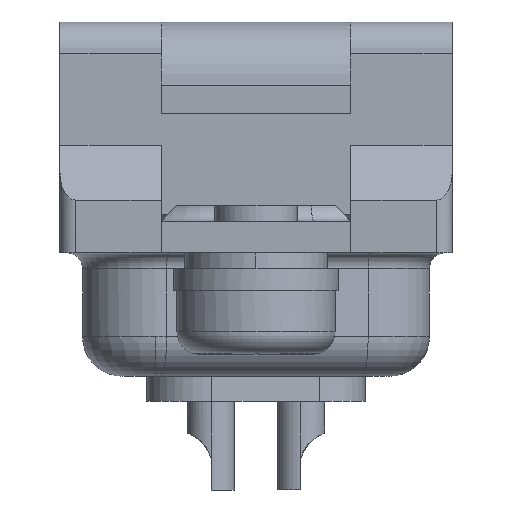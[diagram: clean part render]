
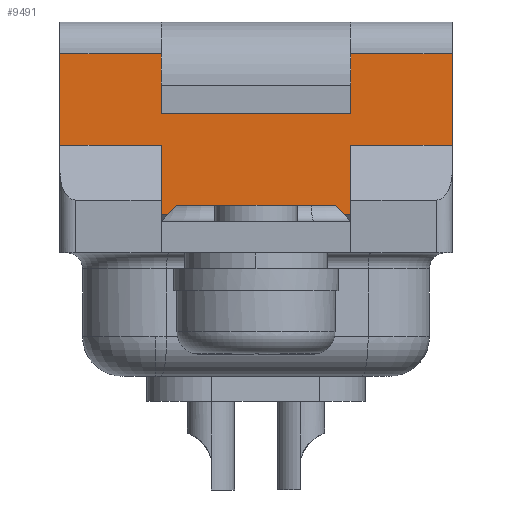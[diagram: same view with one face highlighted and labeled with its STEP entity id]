
A CAD part, left-side view. The second image highlights one B-rep face of the part: STEP entity #9491.
In plain terms, the highlighted planar face has unit normal (-1, 0, 0).
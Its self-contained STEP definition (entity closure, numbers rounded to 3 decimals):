
#85 = EDGE_CURVE ( 'NONE', #9751, #14490, #567, .T. ) ;
#133 = LINE ( 'NONE', #10156, #12706 ) ;
#387 = LINE ( 'NONE', #10152, #13706 ) ;
#456 = CARTESIAN_POINT ( 'NONE',  ( -15.445, -3., 0.7 ) ) ;
#543 = DIRECTION ( 'NONE',  ( -1., 0., 0. ) ) ;
#544 = VERTEX_POINT ( 'NONE', #1763 ) ;
#567 = LINE ( 'NONE', #10264, #13714 ) ;
#737 = LINE ( 'NONE', #13974, #5972 ) ;
#869 = ORIENTED_EDGE ( 'NONE', *, *, #6115, .F. ) ;
#969 = EDGE_CURVE ( 'NONE', #12381, #7129, #9611, .T. ) ;
#1013 = ORIENTED_EDGE ( 'NONE', *, *, #12464, .T. ) ;
#1153 = VERTEX_POINT ( 'NONE', #11208 ) ;
#1248 = LINE ( 'NONE', #15406, #12679 ) ;
#1260 = VERTEX_POINT ( 'NONE', #11367 ) ;
#1333 = DIRECTION ( 'NONE',  ( 0., 0., 1. ) ) ;
#1487 = EDGE_CURVE ( 'NONE', #14490, #1260, #5101, .T. ) ;
#1694 = CARTESIAN_POINT ( 'NONE',  ( -15.445, -3., 5.8 ) ) ;
#1698 = PLANE ( 'NONE',  #6444 ) ;
#1763 = CARTESIAN_POINT ( 'NONE',  ( -15.445, -6.2, 2.9 ) ) ;
#2090 = ORIENTED_EDGE ( 'NONE', *, *, #4558, .T. ) ;
#2457 = EDGE_CURVE ( 'NONE', #3306, #3266, #14072, .T. ) ;
#2707 = CARTESIAN_POINT ( 'NONE',  ( -15.445, 6.2, 5.8 ) ) ;
#2908 = VERTEX_POINT ( 'NONE', #13566 ) ;
#2921 = FACE_OUTER_BOUND ( 'NONE', #7407, .T. ) ;
#2944 = LINE ( 'NONE', #4090, #13813 ) ;
#2959 = ORIENTED_EDGE ( 'NONE', *, *, #14551, .T. ) ;
#2985 = CARTESIAN_POINT ( 'NONE',  ( -15.445, 3., 3.9 ) ) ;
#3266 = VERTEX_POINT ( 'NONE', #11389 ) ;
#3306 = VERTEX_POINT ( 'NONE', #8972 ) ;
#3428 = VECTOR ( 'NONE', #8287, 1000. ) ;
#3580 = CARTESIAN_POINT ( 'NONE',  ( -15.445, -2.5, 1. ) ) ;
#3640 = ORIENTED_EDGE ( 'NONE', *, *, #7298, .F. ) ;
#3914 = ORIENTED_EDGE ( 'NONE', *, *, #13000, .T. ) ;
#3950 = CARTESIAN_POINT ( 'NONE',  ( -15.445, 3., 0.7 ) ) ;
#4030 = LINE ( 'NONE', #7413, #4391 ) ;
#4041 = LINE ( 'NONE', #9114, #5299 ) ;
#4090 = CARTESIAN_POINT ( 'NONE',  ( -15.445, 6.2, 0.7 ) ) ;
#4116 = VECTOR ( 'NONE', #5391, 1000. ) ;
#4391 = VECTOR ( 'NONE', #1333, 1000. ) ;
#4558 = EDGE_CURVE ( 'NONE', #544, #8510, #4030, .T. ) ;
#4631 = CARTESIAN_POINT ( 'NONE',  ( -15.445, 3., 2.9 ) ) ;
#4805 = CARTESIAN_POINT ( 'NONE',  ( -15.445, 3., 2.9 ) ) ;
#4896 = VERTEX_POINT ( 'NONE', #3580 ) ;
#4990 = VECTOR ( 'NONE', #6773, 1000. ) ;
#5008 = ORIENTED_EDGE ( 'NONE', *, *, #5525, .T. ) ;
#5034 = CARTESIAN_POINT ( 'NONE',  ( -15.445, -3., 6.8 ) ) ;
#5052 = ORIENTED_EDGE ( 'NONE', *, *, #10833, .F. ) ;
#5100 = LINE ( 'NONE', #15442, #3428 ) ;
#5101 = LINE ( 'NONE', #4631, #6214 ) ;
#5243 = CARTESIAN_POINT ( 'NONE',  ( -15.445, -3., 2.9 ) ) ;
#5299 = VECTOR ( 'NONE', #5471, 1000. ) ;
#5391 = DIRECTION ( 'NONE',  ( 0., 0., 1. ) ) ;
#5402 = DIRECTION ( 'NONE',  ( 0., -1., 0. ) ) ;
#5471 = DIRECTION ( 'NONE',  ( 0., 0.707, 0.707 ) ) ;
#5487 = CARTESIAN_POINT ( 'NONE',  ( -15.445, -3., 2.9 ) ) ;
#5525 = EDGE_CURVE ( 'NONE', #8510, #7129, #1248, .T. ) ;
#5665 = VECTOR ( 'NONE', #12267, 1000. ) ;
#5810 = DIRECTION ( 'NONE',  ( 0., 1., 0. ) ) ;
#5972 = VECTOR ( 'NONE', #9219, 1000. ) ;
#6115 = EDGE_CURVE ( 'NONE', #4896, #1153, #13256, .T. ) ;
#6181 = DIRECTION ( 'NONE',  ( 0., 1., 0. ) ) ;
#6214 = VECTOR ( 'NONE', #5810, 1000. ) ;
#6444 = AXIS2_PLACEMENT_3D ( 'NONE', #6496, #543, #5402 ) ;
#6496 = CARTESIAN_POINT ( 'NONE',  ( -15.445, 0., 1.612 ) ) ;
#6592 = CARTESIAN_POINT ( 'NONE',  ( -15.445, 3., 6.8 ) ) ;
#6773 = DIRECTION ( 'NONE',  ( 0., 1., 0. ) ) ;
#7129 = VERTEX_POINT ( 'NONE', #1694 ) ;
#7142 = VECTOR ( 'NONE', #15025, 1000. ) ;
#7298 = EDGE_CURVE ( 'NONE', #3266, #12381, #11196, .T. ) ;
#7407 = EDGE_LOOP ( 'NONE', ( #2090, #5008, #11341, #3640, #9198, #13707, #8991, #8760, #13844, #2959, #7944, #869, #5052, #3914, #11058, #1013 ) ) ;
#7413 = CARTESIAN_POINT ( 'NONE',  ( -15.445, -6.2, 6.8 ) ) ;
#7657 = VERTEX_POINT ( 'NONE', #12346 ) ;
#7659 = LINE ( 'NONE', #5243, #4116 ) ;
#7944 = ORIENTED_EDGE ( 'NONE', *, *, #11515, .F. ) ;
#8287 = DIRECTION ( 'NONE',  ( 0., 0.707, -0.707 ) ) ;
#8301 = DIRECTION ( 'NONE',  ( 0., 1., 0. ) ) ;
#8510 = VERTEX_POINT ( 'NONE', #13348 ) ;
#8760 = ORIENTED_EDGE ( 'NONE', *, *, #1487, .F. ) ;
#8972 = CARTESIAN_POINT ( 'NONE',  ( -15.445, 3., 5.8 ) ) ;
#8991 = ORIENTED_EDGE ( 'NONE', *, *, #14244, .T. ) ;
#8992 = VECTOR ( 'NONE', #9173, 1000. ) ;
#9114 = CARTESIAN_POINT ( 'NONE',  ( -15.445, -2.5, 1. ) ) ;
#9159 = VERTEX_POINT ( 'NONE', #456 ) ;
#9173 = DIRECTION ( 'NONE',  ( 0., -1., 0. ) ) ;
#9190 = DIRECTION ( 'NONE',  ( 0., 0., -1. ) ) ;
#9198 = ORIENTED_EDGE ( 'NONE', *, *, #2457, .F. ) ;
#9219 = DIRECTION ( 'NONE',  ( 0., -1., 0. ) ) ;
#9397 = EDGE_CURVE ( 'NONE', #3306, #15563, #14522, .T. ) ;
#9491 = ADVANCED_FACE ( 'NONE', ( #2921 ), #1698, .T. ) ;
#9611 = LINE ( 'NONE', #5034, #5665 ) ;
#9751 = VERTEX_POINT ( 'NONE', #3950 ) ;
#10152 = CARTESIAN_POINT ( 'NONE',  ( -15.445, -3., 2.9 ) ) ;
#10156 = CARTESIAN_POINT ( 'NONE',  ( -15.445, 6.2, 6.8 ) ) ;
#10264 = CARTESIAN_POINT ( 'NONE',  ( -15.445, 3., 2.9 ) ) ;
#10403 = VECTOR ( 'NONE', #6181, 1000. ) ;
#10833 = EDGE_CURVE ( 'NONE', #2908, #4896, #4041, .T. ) ;
#11058 = ORIENTED_EDGE ( 'NONE', *, *, #13831, .T. ) ;
#11196 = LINE ( 'NONE', #2985, #8992 ) ;
#11208 = CARTESIAN_POINT ( 'NONE',  ( -15.445, 2.5, 1. ) ) ;
#11341 = ORIENTED_EDGE ( 'NONE', *, *, #969, .F. ) ;
#11367 = CARTESIAN_POINT ( 'NONE',  ( -15.445, 6.2, 2.9 ) ) ;
#11389 = CARTESIAN_POINT ( 'NONE',  ( -15.445, 3., 3.9 ) ) ;
#11450 = DIRECTION ( 'NONE',  ( 0., 0., 1. ) ) ;
#11515 = EDGE_CURVE ( 'NONE', #1153, #7657, #5100, .T. ) ;
#12267 = DIRECTION ( 'NONE',  ( 0., 0., 1. ) ) ;
#12346 = CARTESIAN_POINT ( 'NONE',  ( -15.445, 2.8, 0.7 ) ) ;
#12381 = VERTEX_POINT ( 'NONE', #12724 ) ;
#12464 = EDGE_CURVE ( 'NONE', #13938, #544, #387, .T. ) ;
#12679 = VECTOR ( 'NONE', #8301, 1000. ) ;
#12706 = VECTOR ( 'NONE', #9190, 1000. ) ;
#12724 = CARTESIAN_POINT ( 'NONE',  ( -15.445, -3., 3.9 ) ) ;
#13000 = EDGE_CURVE ( 'NONE', #2908, #9159, #737, .T. ) ;
#13256 = LINE ( 'NONE', #15211, #4990 ) ;
#13348 = CARTESIAN_POINT ( 'NONE',  ( -15.445, -6.2, 5.8 ) ) ;
#13447 = CARTESIAN_POINT ( 'NONE',  ( -15.445, 0., 5.8 ) ) ;
#13566 = CARTESIAN_POINT ( 'NONE',  ( -15.445, -2.8, 0.7 ) ) ;
#13608 = DIRECTION ( 'NONE',  ( 0., -1., 0. ) ) ;
#13706 = VECTOR ( 'NONE', #14923, 1000. ) ;
#13707 = ORIENTED_EDGE ( 'NONE', *, *, #9397, .T. ) ;
#13714 = VECTOR ( 'NONE', #11450, 1000. ) ;
#13813 = VECTOR ( 'NONE', #13608, 1000. ) ;
#13831 = EDGE_CURVE ( 'NONE', #9159, #13938, #7659, .T. ) ;
#13844 = ORIENTED_EDGE ( 'NONE', *, *, #85, .F. ) ;
#13938 = VERTEX_POINT ( 'NONE', #5487 ) ;
#13974 = CARTESIAN_POINT ( 'NONE',  ( -15.445, 6.2, 0.7 ) ) ;
#14072 = LINE ( 'NONE', #6592, #7142 ) ;
#14244 = EDGE_CURVE ( 'NONE', #15563, #1260, #133, .T. ) ;
#14490 = VERTEX_POINT ( 'NONE', #4805 ) ;
#14522 = LINE ( 'NONE', #13447, #10403 ) ;
#14551 = EDGE_CURVE ( 'NONE', #9751, #7657, #2944, .T. ) ;
#14923 = DIRECTION ( 'NONE',  ( 0., -1., 0. ) ) ;
#15025 = DIRECTION ( 'NONE',  ( 0., 0., -1. ) ) ;
#15211 = CARTESIAN_POINT ( 'NONE',  ( -15.445, 2.5, 1. ) ) ;
#15406 = CARTESIAN_POINT ( 'NONE',  ( -15.445, 0., 5.8 ) ) ;
#15442 = CARTESIAN_POINT ( 'NONE',  ( -15.445, 3., 0.5 ) ) ;
#15563 = VERTEX_POINT ( 'NONE', #2707 ) ;
